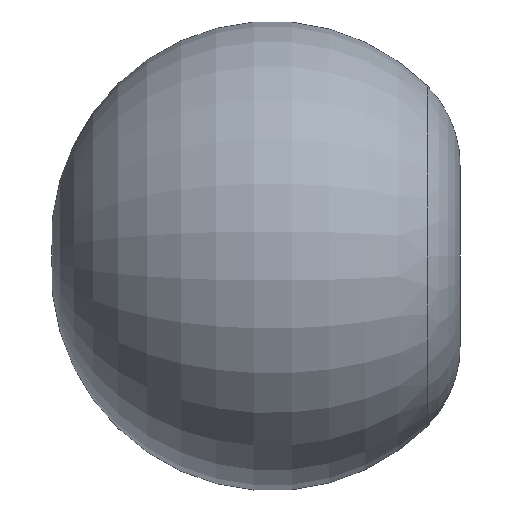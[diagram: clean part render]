
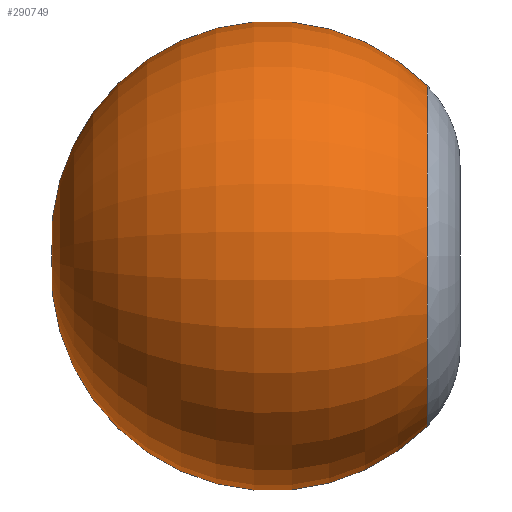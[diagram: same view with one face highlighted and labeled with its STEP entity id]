
A CAD part, left-side view. The second image highlights one B-rep face of the part: STEP entity #290749.
In plain terms, the highlighted toroidal (fillet/blend) face has major radius 50 mm and minor radius 759.17 mm.
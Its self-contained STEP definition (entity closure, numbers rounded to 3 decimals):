
#2717 = ORIENTED_EDGE ( 'NONE', *, *, #121339, .T. ) ;
#44692 = ORIENTED_EDGE ( 'NONE', *, *, #287759, .F. ) ;
#66546 = DIRECTION ( 'NONE',  ( 0., -1., 0. ) ) ;
#69797 = AXIS2_PLACEMENT_3D ( 'NONE', #169811, #418749, #205610 ) ;
#84951 = DIRECTION ( 'NONE',  ( 1., 0., 0. ) ) ;
#86564 = CARTESIAN_POINT ( 'NONE',  ( 0., -171.814, 0. ) ) ;
#121339 = EDGE_CURVE ( 'NONE', #220285, #253547, #394835, .T. ) ;
#122343 = DIRECTION ( 'NONE',  ( 0., 0., -1. ) ) ;
#128118 = EDGE_LOOP ( 'NONE', ( #223013, #2717, #44692 ) ) ;
#136501 = CARTESIAN_POINT ( 'NONE',  ( 0., 365., 0. ) ) ;
#169811 = CARTESIAN_POINT ( 'NONE',  ( 0., 365., -50. ) ) ;
#191727 = FACE_OUTER_BOUND ( 'NONE', #128118, .T. ) ;
#196191 = AXIS2_PLACEMENT_3D ( 'NONE', #136501, #66546, #315441 ) ;
#197972 = CARTESIAN_POINT ( 'NONE',  ( 0., -171.814, 586.814 ) ) ;
#200940 = CIRCLE ( 'NONE', #420029, 759.17 ) ;
#205610 = DIRECTION ( 'NONE',  ( 0., 0., 1. ) ) ;
#220285 = VERTEX_POINT ( 'NONE', #317472 ) ;
#223013 = ORIENTED_EDGE ( 'NONE', *, *, #340233, .F. ) ;
#250708 = VERTEX_POINT ( 'NONE', #197972 ) ;
#252992 = TOROIDAL_SURFACE ( 'NONE', #196191, 50., 759.17 ) ;
#253547 = VERTEX_POINT ( 'NONE', #428313 ) ;
#287759 = EDGE_CURVE ( 'NONE', #250708, #253547, #454780, .T. ) ;
#290749 = ADVANCED_FACE ( 'NONE', ( #191727 ), #252992, .T. ) ;
#298118 = CARTESIAN_POINT ( 'NONE',  ( 0., 365., 50. ) ) ;
#315441 = DIRECTION ( 'NONE',  ( 0., 0., -1. ) ) ;
#317472 = CARTESIAN_POINT ( 'NONE',  ( 0., 1122.522, 0. ) ) ;
#333880 = DIRECTION ( 'NONE',  ( 0., 0., -1. ) ) ;
#335502 = DIRECTION ( 'NONE',  ( 0., -1., 0. ) ) ;
#340233 = EDGE_CURVE ( 'NONE', #220285, #250708, #200940, .T. ) ;
#394835 = CIRCLE ( 'NONE', #69797, 759.17 ) ;
#418749 = DIRECTION ( 'NONE',  ( -1., 0., 0. ) ) ;
#420029 = AXIS2_PLACEMENT_3D ( 'NONE', #298118, #84951, #333880 ) ;
#428313 = CARTESIAN_POINT ( 'NONE',  ( 0., -171.814, -586.814 ) ) ;
#433859 = AXIS2_PLACEMENT_3D ( 'NONE', #86564, #335502, #122343 ) ;
#454780 = CIRCLE ( 'NONE', #433859, 586.814 ) ;
